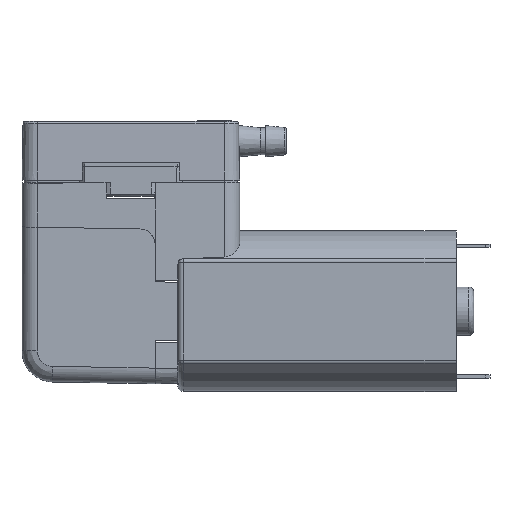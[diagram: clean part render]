
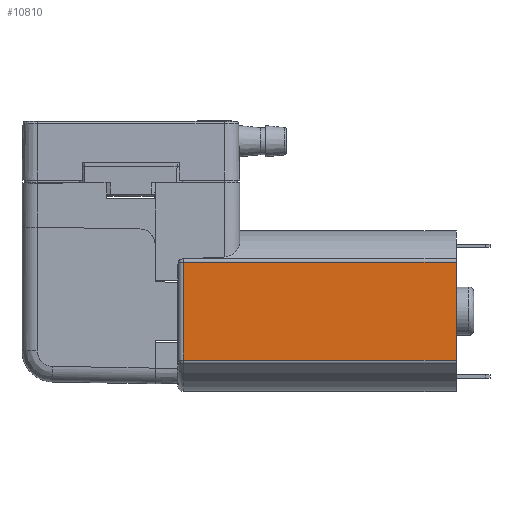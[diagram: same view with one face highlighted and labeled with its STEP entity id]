
A CAD part, top view. The second image highlights one B-rep face of the part: STEP entity #10810.
In plain terms, the highlighted planar face has unit normal (0, 0, 1).
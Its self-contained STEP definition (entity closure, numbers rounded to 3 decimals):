
#679 = EDGE_CURVE ( 'NONE', #3495, #14058, #2047, .T. ) ;
#1025 = CARTESIAN_POINT ( 'NONE',  ( 0.5, -4.905, 6. ) ) ;
#1436 = DIRECTION ( 'NONE',  ( -1., 0., 0. ) ) ;
#1570 = CARTESIAN_POINT ( 'NONE',  ( 26.84, 4.724, 6. ) ) ;
#1730 = CARTESIAN_POINT ( 'NONE',  ( 26.84, -4.724, 6. ) ) ;
#1837 = CARTESIAN_POINT ( 'NONE',  ( 0.5, 4.724, 6. ) ) ;
#2047 = LINE ( 'NONE', #13553, #2429 ) ;
#2204 = DIRECTION ( 'NONE',  ( 0., 0., -1. ) ) ;
#2357 = DIRECTION ( 'NONE',  ( 0., 1., 0. ) ) ;
#2429 = VECTOR ( 'NONE', #2974, 1000. ) ;
#2444 = CARTESIAN_POINT ( 'NONE',  ( 0., -4.724, 6. ) ) ;
#2974 = DIRECTION ( 'NONE',  ( 1., 0., 0. ) ) ;
#3030 = EDGE_CURVE ( 'NONE', #5320, #3495, #9212, .T. ) ;
#3495 = VERTEX_POINT ( 'NONE', #1837 ) ;
#3596 = VECTOR ( 'NONE', #2357, 1000. ) ;
#4600 = PLANE ( 'NONE',  #5462 ) ;
#4651 = LINE ( 'NONE', #15136, #11634 ) ;
#4731 = ORIENTED_EDGE ( 'NONE', *, *, #679, .F. ) ;
#4880 = ORIENTED_EDGE ( 'NONE', *, *, #7753, .F. ) ;
#5320 = VERTEX_POINT ( 'NONE', #13929 ) ;
#5462 = AXIS2_PLACEMENT_3D ( 'NONE', #10466, #2204, #6999 ) ;
#5668 = ORIENTED_EDGE ( 'NONE', *, *, #3030, .F. ) ;
#6134 = VECTOR ( 'NONE', #1436, 1000. ) ;
#6313 = VERTEX_POINT ( 'NONE', #1730 ) ;
#6999 = DIRECTION ( 'NONE',  ( -1., 0., 0. ) ) ;
#7753 = EDGE_CURVE ( 'NONE', #6313, #5320, #10854, .T. ) ;
#8210 = DIRECTION ( 'NONE',  ( 0., -1., 0. ) ) ;
#8272 = EDGE_LOOP ( 'NONE', ( #5668, #4880, #12774, #4731 ) ) ;
#9212 = LINE ( 'NONE', #1025, #3596 ) ;
#10466 = CARTESIAN_POINT ( 'NONE',  ( 0., -4.905, 6. ) ) ;
#10810 = ADVANCED_FACE ( 'NONE', ( #14160 ), #4600, .F. ) ;
#10854 = LINE ( 'NONE', #2444, #6134 ) ;
#11634 = VECTOR ( 'NONE', #8210, 1000. ) ;
#12774 = ORIENTED_EDGE ( 'NONE', *, *, #13425, .F. ) ;
#13425 = EDGE_CURVE ( 'NONE', #14058, #6313, #4651, .T. ) ;
#13553 = CARTESIAN_POINT ( 'NONE',  ( 26.84, 4.724, 6. ) ) ;
#13929 = CARTESIAN_POINT ( 'NONE',  ( 0.5, -4.724, 6. ) ) ;
#14058 = VERTEX_POINT ( 'NONE', #1570 ) ;
#14160 = FACE_OUTER_BOUND ( 'NONE', #8272, .T. ) ;
#15136 = CARTESIAN_POINT ( 'NONE',  ( 26.84, 0., 6. ) ) ;
